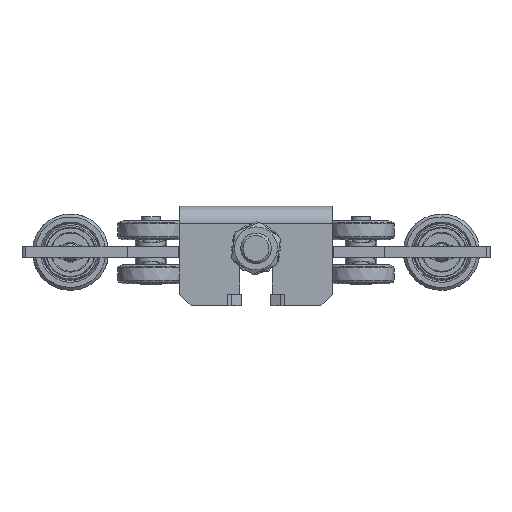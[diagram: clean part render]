
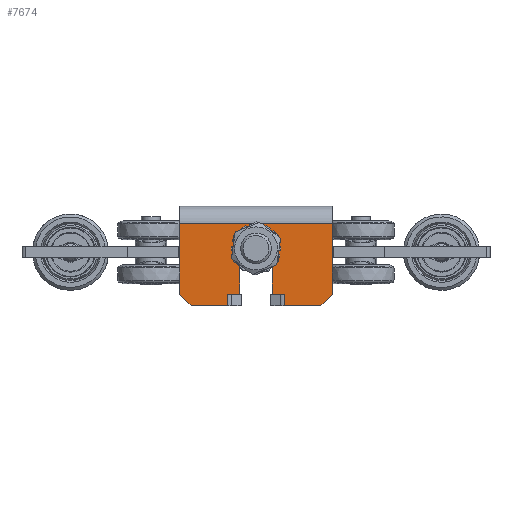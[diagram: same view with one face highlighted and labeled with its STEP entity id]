
A CAD part, front view. The second image highlights one B-rep face of the part: STEP entity #7674.
In plain terms, the highlighted planar face has unit normal (0, -1, 0) as drawn and (0, 0, -1) by its records, which use the part's own axes.
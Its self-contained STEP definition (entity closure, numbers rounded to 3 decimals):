
#867=FACE_OUTER_BOUND('',#1396,.T.);
#1396=EDGE_LOOP('',(#5998,#5999,#6000,#6001,#6002,#6003,#6004,#6005,#6006,
#6007,#6008,#6009,#6010,#6011,#6012,#6013,#6014,#6015));
#1828=CIRCLE('',#8330,8.5);
#2255=LINE('',#18497,#2840);
#2274=LINE('',#18537,#2859);
#2281=LINE('',#18557,#2866);
#2284=LINE('',#18563,#2869);
#2285=LINE('',#18566,#2870);
#2287=LINE('',#18571,#2872);
#2290=LINE('',#18575,#2875);
#2292=LINE('',#18579,#2877);
#2293=LINE('',#18582,#2878);
#2295=LINE('',#18586,#2880);
#2297=LINE('',#18590,#2882);
#2329=LINE('',#18675,#2914);
#2330=LINE('',#18679,#2915);
#2332=LINE('',#18683,#2917);
#2333=LINE('',#18685,#2918);
#2334=LINE('',#18687,#2919);
#2335=LINE('',#18688,#2920);
#2840=VECTOR('',#9692,6.);
#2859=VECTOR('',#9719,19.01);
#2866=VECTOR('',#9740,6.);
#2869=VECTOR('',#9747,19.01);
#2870=VECTOR('',#9750,0.01);
#2872=VECTOR('',#9754,6.5);
#2875=VECTOR('',#9759,0.01);
#2877=VECTOR('',#9763,0.01);
#2878=VECTOR('',#9766,0.01);
#2880=VECTOR('',#9770,6.5);
#2882=VECTOR('',#9774,23.99);
#2914=VECTOR('',#9868,80.);
#2915=VECTOR('',#9873,37.);
#2917=VECTOR('',#9877,23.99);
#2918=VECTOR('',#9880,8.485);
#2919=VECTOR('',#9881,37.);
#2920=VECTOR('',#9882,8.485);
#3491=VERTEX_POINT('',#18479);
#3494=VERTEX_POINT('',#18487);
#3514=VERTEX_POINT('',#18536);
#3516=VERTEX_POINT('',#18541);
#3518=VERTEX_POINT('',#18548);
#3521=VERTEX_POINT('',#18561);
#3522=VERTEX_POINT('',#18565);
#3523=VERTEX_POINT('',#18569);
#3524=VERTEX_POINT('',#18570);
#3525=VERTEX_POINT('',#18577);
#3526=VERTEX_POINT('',#18581);
#3527=VERTEX_POINT('',#18585);
#3528=VERTEX_POINT('',#18589);
#3549=VERTEX_POINT('',#18665);
#3550=VERTEX_POINT('',#18670);
#3551=VERTEX_POINT('',#18678);
#3552=VERTEX_POINT('',#18682);
#3553=VERTEX_POINT('',#18686);
#4352=EDGE_CURVE('',#3494,#3491,#2255,.T.);
#4372=EDGE_CURVE('',#3494,#3514,#2274,.T.);
#4383=EDGE_CURVE('',#3518,#3516,#2281,.T.);
#4386=EDGE_CURVE('',#3521,#3516,#2284,.T.);
#4387=EDGE_CURVE('',#3522,#3518,#2285,.T.);
#4389=EDGE_CURVE('',#3523,#3524,#2287,.T.);
#4392=EDGE_CURVE('',#3524,#3522,#2290,.T.);
#4394=EDGE_CURVE('',#3491,#3525,#2292,.T.);
#4395=EDGE_CURVE('',#3525,#3526,#2293,.T.);
#4397=EDGE_CURVE('',#3526,#3527,#2295,.T.);
#4399=EDGE_CURVE('',#3523,#3528,#2297,.T.);
#4443=EDGE_CURVE('',#3550,#3549,#2329,.T.);
#4444=EDGE_CURVE('',#3550,#3551,#2330,.T.);
#4446=EDGE_CURVE('',#3552,#3527,#2332,.T.);
#4447=EDGE_CURVE('',#3528,#3552,#1828,.T.);
#4448=EDGE_CURVE('',#3551,#3521,#2333,.T.);
#4449=EDGE_CURVE('',#3553,#3549,#2334,.T.);
#4450=EDGE_CURVE('',#3514,#3553,#2335,.T.);
#5998=ORIENTED_EDGE('',*,*,#4352,.T.);
#5999=ORIENTED_EDGE('',*,*,#4394,.T.);
#6000=ORIENTED_EDGE('',*,*,#4395,.T.);
#6001=ORIENTED_EDGE('',*,*,#4397,.T.);
#6002=ORIENTED_EDGE('',*,*,#4446,.F.);
#6003=ORIENTED_EDGE('',*,*,#4447,.F.);
#6004=ORIENTED_EDGE('',*,*,#4399,.F.);
#6005=ORIENTED_EDGE('',*,*,#4389,.T.);
#6006=ORIENTED_EDGE('',*,*,#4392,.T.);
#6007=ORIENTED_EDGE('',*,*,#4387,.T.);
#6008=ORIENTED_EDGE('',*,*,#4383,.T.);
#6009=ORIENTED_EDGE('',*,*,#4386,.F.);
#6010=ORIENTED_EDGE('',*,*,#4448,.F.);
#6011=ORIENTED_EDGE('',*,*,#4444,.F.);
#6012=ORIENTED_EDGE('',*,*,#4443,.T.);
#6013=ORIENTED_EDGE('',*,*,#4449,.F.);
#6014=ORIENTED_EDGE('',*,*,#4450,.F.);
#6015=ORIENTED_EDGE('',*,*,#4372,.F.);
#7322=PLANE('',#8329);
#7674=ADVANCED_FACE('',(#867),#7322,.F.);
#8329=AXIS2_PLACEMENT_3D('',#18681,#9875,#9876);
#8330=AXIS2_PLACEMENT_3D('',#18684,#9878,#9879);
#9692=DIRECTION('',(1.,0.,0.));
#9719=DIRECTION('',(0.,-1.,0.));
#9740=DIRECTION('',(-1.,0.,0.));
#9747=DIRECTION('',(0.,-1.,0.));
#9750=DIRECTION('',(0.,-1.,0.));
#9754=DIRECTION('',(0.,1.,0.));
#9759=DIRECTION('',(-1.,0.,0.));
#9763=DIRECTION('',(0.,-1.,0.));
#9766=DIRECTION('',(1.,0.,0.));
#9770=DIRECTION('',(0.,1.,0.));
#9774=DIRECTION('',(1.,0.,0.));
#9868=DIRECTION('',(0.,-1.,0.));
#9873=DIRECTION('',(-1.,0.,0.));
#9875=DIRECTION('center_axis',(0.,0.,1.));
#9876=DIRECTION('ref_axis',(1.,0.,0.));
#9877=DIRECTION('',(-1.,0.,0.));
#9878=DIRECTION('center_axis',(0.,0.,-1.));
#9879=DIRECTION('ref_axis',(0.,-1.,0.));
#9880=DIRECTION('',(-0.707,-0.707,0.));
#9881=DIRECTION('',(1.,0.,0.));
#9882=DIRECTION('',(0.707,-0.707,0.));
#18479=CARTESIAN_POINT('',(-24.,-14.99,-6.));
#18487=CARTESIAN_POINT('',(-30.,-14.99,-6.));
#18497=CARTESIAN_POINT('',(-2.54,-14.99,-6.));
#18536=CARTESIAN_POINT('',(-30.,-34.,-6.));
#18537=CARTESIAN_POINT('',(-30.,-34.,-6.));
#18541=CARTESIAN_POINT('',(-30.,14.99,-6.));
#18548=CARTESIAN_POINT('',(-24.,14.99,-6.));
#18557=CARTESIAN_POINT('',(0.46,14.99,-6.));
#18561=CARTESIAN_POINT('',(-30.,34.,-6.));
#18563=CARTESIAN_POINT('',(-30.,8.5,-6.));
#18565=CARTESIAN_POINT('',(-24.,15.,-6.));
#18566=CARTESIAN_POINT('',(-24.,7.5,-6.));
#18569=CARTESIAN_POINT('',(-23.99,8.5,-6.));
#18570=CARTESIAN_POINT('',(-23.99,15.,-6.));
#18571=CARTESIAN_POINT('',(-23.99,4.25,-6.));
#18575=CARTESIAN_POINT('',(0.465,15.,-6.));
#18577=CARTESIAN_POINT('',(-24.,-15.,-6.));
#18579=CARTESIAN_POINT('',(-24.,-4.25,-6.));
#18581=CARTESIAN_POINT('',(-23.99,-15.,-6.));
#18582=CARTESIAN_POINT('',(0.46,-15.,-6.));
#18585=CARTESIAN_POINT('',(-23.99,-8.5,-6.));
#18586=CARTESIAN_POINT('',(-23.99,-7.5,-6.));
#18589=CARTESIAN_POINT('',(0.,8.5,-6.));
#18590=CARTESIAN_POINT('',(0.,8.5,-6.));
#18665=CARTESIAN_POINT('',(13.,-40.,-6.));
#18670=CARTESIAN_POINT('',(13.,40.,-6.));
#18675=CARTESIAN_POINT('',(13.,20.,-6.));
#18678=CARTESIAN_POINT('',(-24.,40.,-6.));
#18679=CARTESIAN_POINT('',(-24.,40.,-6.));
#18681=CARTESIAN_POINT('Origin',(24.919,0.,-6.));
#18682=CARTESIAN_POINT('',(0.,-8.5,-6.));
#18683=CARTESIAN_POINT('',(-30.,-8.5,-6.));
#18684=CARTESIAN_POINT('Origin',(0.,0.,-6.));
#18685=CARTESIAN_POINT('',(-30.,34.,-6.));
#18686=CARTESIAN_POINT('',(-24.,-40.,-6.));
#18687=CARTESIAN_POINT('',(64.,-40.,-6.));
#18688=CARTESIAN_POINT('',(-24.,-40.,-6.));
